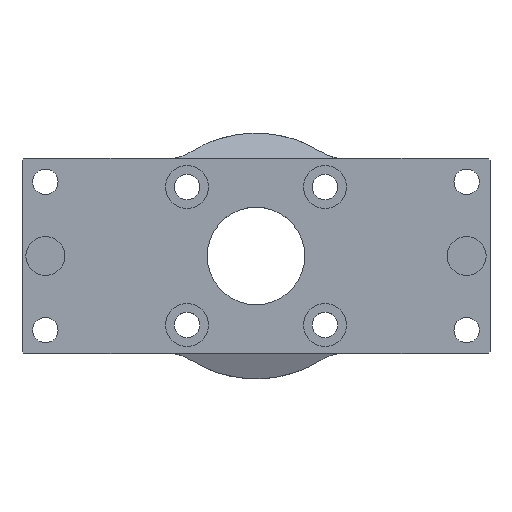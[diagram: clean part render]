
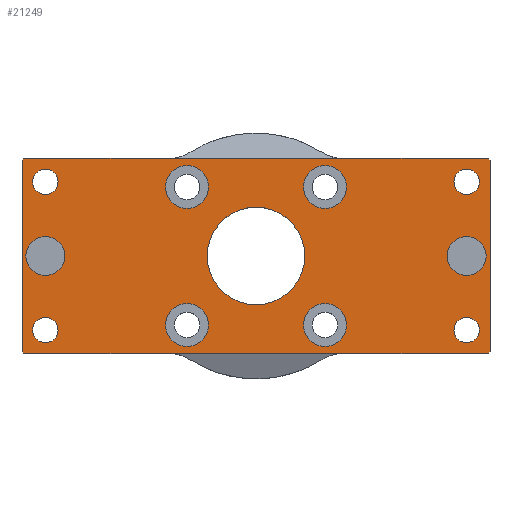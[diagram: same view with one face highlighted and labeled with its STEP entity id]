
A CAD part, top view. The second image highlights one B-rep face of the part: STEP entity #21249.
In plain terms, the highlighted planar face has unit normal (0, 0, 1).
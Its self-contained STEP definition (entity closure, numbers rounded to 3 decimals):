
#163=CARTESIAN_POINT('',(57.25,-19.0,0.0));
#164=VERTEX_POINT('',#163);
#165=CARTESIAN_POINT('',(54.0,-19.0,0.0));
#166=DIRECTION('',(0.0,0.0,-1.0));
#167=DIRECTION('',(-1.0,0.0,0.0));
#168=AXIS2_PLACEMENT_3D('',#165,#166,#167);
#169=CIRCLE('',#168,3.25);
#170=EDGE_CURVE('',#164,#164,#169,.T.);
#273=CARTESIAN_POINT('',(-50.75,-19.0,0.0));
#274=VERTEX_POINT('',#273);
#275=CARTESIAN_POINT('',(-54.0,-19.0,0.0));
#276=DIRECTION('',(0.0,0.0,-1.0));
#277=DIRECTION('',(-1.0,0.0,0.0));
#278=AXIS2_PLACEMENT_3D('',#275,#276,#277);
#279=CIRCLE('',#278,3.25);
#280=EDGE_CURVE('',#274,#274,#279,.T.);
#383=CARTESIAN_POINT('',(-50.75,19.0,0.0));
#384=VERTEX_POINT('',#383);
#385=CARTESIAN_POINT('',(-54.0,19.0,0.0));
#386=DIRECTION('',(0.0,0.0,-1.0));
#387=DIRECTION('',(-1.0,0.0,0.0));
#388=AXIS2_PLACEMENT_3D('',#385,#386,#387);
#389=CIRCLE('',#388,3.25);
#390=EDGE_CURVE('',#384,#384,#389,.T.);
#493=CARTESIAN_POINT('',(57.25,19.0,0.0));
#494=VERTEX_POINT('',#493);
#495=CARTESIAN_POINT('',(54.0,19.0,0.0));
#496=DIRECTION('',(0.0,0.0,-1.0));
#497=DIRECTION('',(-1.0,0.0,0.0));
#498=AXIS2_PLACEMENT_3D('',#495,#496,#497);
#499=CIRCLE('',#498,3.25);
#500=EDGE_CURVE('',#494,#494,#499,.T.);
#513=CARTESIAN_POINT('',(-22.299,25.0,0.0));
#514=VERTEX_POINT('',#513);
#524=CARTESIAN_POINT('',(22.299,25.0,0.0));
#525=VERTEX_POINT('',#524);
#526=CARTESIAN_POINT('',(22.299,25.,0.0));
#527=DIRECTION('',(-1.0,0.0,0.0));
#528=VECTOR('',#527,44.598);
#529=LINE('',#526,#528);
#530=EDGE_CURVE('',#525,#514,#529,.T.);
#556=CARTESIAN_POINT('',(22.299,-25.0,0.0));
#557=VERTEX_POINT('',#556);
#567=CARTESIAN_POINT('',(-22.299,-25.0,0.0));
#568=VERTEX_POINT('',#567);
#569=CARTESIAN_POINT('',(-22.299,-25.0,0.));
#570=DIRECTION('',(1.0,0.0,0.0));
#571=VECTOR('',#570,44.598);
#572=LINE('',#569,#571);
#573=EDGE_CURVE('',#568,#557,#572,.T.);
#19398=CARTESIAN_POINT('',(-59.5,25.,0.0));
#19399=VERTEX_POINT('',#19398);
#19408=CARTESIAN_POINT('',(-22.299,25.0,0.0));
#19409=DIRECTION('',(-1.0,0.0,0.0));
#19410=VECTOR('',#19409,37.201);
#19411=LINE('',#19408,#19410);
#19412=EDGE_CURVE('',#514,#19399,#19411,.T.);
#19955=CARTESIAN_POINT('',(59.5,25.,0.0));
#19956=VERTEX_POINT('',#19955);
#19963=CARTESIAN_POINT('',(60.,24.5,0.0));
#19964=VERTEX_POINT('',#19963);
#19965=CARTESIAN_POINT('',(59.5,25.0,0.0));
#19966=DIRECTION('',(0.707,-0.707,0.0));
#19967=VECTOR('',#19966,0.707);
#19968=LINE('',#19965,#19967);
#19969=EDGE_CURVE('',#19956,#19964,#19968,.T.);
#20179=CARTESIAN_POINT('',(60.,-24.5,0.0));
#20180=VERTEX_POINT('',#20179);
#20181=CARTESIAN_POINT('',(60.,-24.5,0.0));
#20182=DIRECTION('',(0.0,1.0,0.0));
#20183=VECTOR('',#20182,49.0);
#20184=LINE('',#20181,#20183);
#20185=EDGE_CURVE('',#20180,#19964,#20184,.T.);
#20204=CARTESIAN_POINT('',(59.5,-25.,0.0));
#20205=VERTEX_POINT('',#20204);
#20206=CARTESIAN_POINT('',(60.,-24.5,0.0));
#20207=DIRECTION('',(-0.707,-0.707,0.0));
#20208=VECTOR('',#20207,0.707);
#20209=LINE('',#20206,#20208);
#20210=EDGE_CURVE('',#20180,#20205,#20209,.T.);
#20227=CARTESIAN_POINT('',(-60.,24.5,0.0));
#20228=VERTEX_POINT('',#20227);
#20235=CARTESIAN_POINT('',(-60.,24.5,0.0));
#20236=DIRECTION('',(0.707,0.707,0.0));
#20237=VECTOR('',#20236,0.707);
#20238=LINE('',#20235,#20237);
#20239=EDGE_CURVE('',#20228,#19399,#20238,.T.);
#20252=CARTESIAN_POINT('',(-60.,-24.5,0.0));
#20253=VERTEX_POINT('',#20252);
#20260=CARTESIAN_POINT('',(-60.,24.5,0.0));
#20261=DIRECTION('',(0.0,-1.0,0.0));
#20262=VECTOR('',#20261,49.0);
#20263=LINE('',#20260,#20262);
#20264=EDGE_CURVE('',#20228,#20253,#20263,.T.);
#20275=CARTESIAN_POINT('',(-59.5,-25.,0.0));
#20276=VERTEX_POINT('',#20275);
#20283=CARTESIAN_POINT('',(-59.5,-25.0,0.0));
#20284=DIRECTION('',(-0.707,0.707,0.0));
#20285=VECTOR('',#20284,0.707);
#20286=LINE('',#20283,#20285);
#20287=EDGE_CURVE('',#20276,#20253,#20286,.T.);
#20301=CARTESIAN_POINT('',(-59.5,-25.,0.0));
#20302=DIRECTION('',(1.0,0.0,0.0));
#20303=VECTOR('',#20302,37.201);
#20304=LINE('',#20301,#20303);
#20305=EDGE_CURVE('',#20276,#568,#20304,.T.);
#20364=CARTESIAN_POINT('',(-12.178,-17.678,0.0));
#20365=VERTEX_POINT('',#20364);
#20366=CARTESIAN_POINT('',(-17.678,-17.678,0.0));
#20367=DIRECTION('',(0.0,0.0,-1.0));
#20368=DIRECTION('',(1.0,0.0,0.0));
#20369=AXIS2_PLACEMENT_3D('',#20366,#20367,#20368);
#20370=CIRCLE('',#20369,5.5);
#20371=EDGE_CURVE('',#20365,#20365,#20370,.T.);
#20466=CARTESIAN_POINT('',(23.178,-17.678,0.0));
#20467=VERTEX_POINT('',#20466);
#20468=CARTESIAN_POINT('',(17.678,-17.678,0.0));
#20469=DIRECTION('',(0.0,0.0,-1.0));
#20470=DIRECTION('',(1.0,0.0,0.0));
#20471=AXIS2_PLACEMENT_3D('',#20468,#20469,#20470);
#20472=CIRCLE('',#20471,5.5);
#20473=EDGE_CURVE('',#20467,#20467,#20472,.T.);
#20568=CARTESIAN_POINT('',(23.178,17.678,0.0));
#20569=VERTEX_POINT('',#20568);
#20570=CARTESIAN_POINT('',(17.678,17.678,0.0));
#20571=DIRECTION('',(0.0,0.0,-1.0));
#20572=DIRECTION('',(1.0,0.0,0.0));
#20573=AXIS2_PLACEMENT_3D('',#20570,#20571,#20572);
#20574=CIRCLE('',#20573,5.5);
#20575=EDGE_CURVE('',#20569,#20569,#20574,.T.);
#20670=CARTESIAN_POINT('',(-12.178,17.678,0.0));
#20671=VERTEX_POINT('',#20670);
#20672=CARTESIAN_POINT('',(-17.678,17.678,0.0));
#20673=DIRECTION('',(0.0,0.0,-1.0));
#20674=DIRECTION('',(1.0,0.0,0.0));
#20675=AXIS2_PLACEMENT_3D('',#20672,#20673,#20674);
#20676=CIRCLE('',#20675,5.5);
#20677=EDGE_CURVE('',#20671,#20671,#20676,.T.);
#20944=CARTESIAN_POINT('',(59.0,0.0,0.0));
#20945=VERTEX_POINT('',#20944);
#20946=CARTESIAN_POINT('',(54.0,0.0,0.0));
#20947=DIRECTION('',(0.0,0.0,-1.0));
#20948=DIRECTION('',(1.0,0.0,0.0));
#20949=AXIS2_PLACEMENT_3D('',#20946,#20947,#20948);
#20950=CIRCLE('',#20949,5.0);
#20951=EDGE_CURVE('',#20945,#20945,#20950,.T.);
#21002=CARTESIAN_POINT('',(-49.0,0.0,0.0));
#21003=VERTEX_POINT('',#21002);
#21004=CARTESIAN_POINT('',(-54.0,0.0,0.0));
#21005=DIRECTION('',(0.0,0.0,-1.0));
#21006=DIRECTION('',(1.0,0.0,0.0));
#21007=AXIS2_PLACEMENT_3D('',#21004,#21005,#21006);
#21008=CIRCLE('',#21007,5.0);
#21009=EDGE_CURVE('',#21003,#21003,#21008,.T.);
#21087=CARTESIAN_POINT('',(12.505,0.,0.0));
#21088=VERTEX_POINT('',#21087);
#21089=CARTESIAN_POINT('',(0.0,0.0,0.0));
#21090=DIRECTION('',(0.0,0.0,-1.0));
#21091=DIRECTION('',(-1.0,0.0,0.0));
#21092=AXIS2_PLACEMENT_3D('',#21089,#21090,#21091);
#21093=CIRCLE('',#21092,12.505);
#21094=EDGE_CURVE('',#21088,#21088,#21093,.T.);
#21159=CARTESIAN_POINT('',(59.5,25.,0.0));
#21160=DIRECTION('',(-1.0,0.0,0.0));
#21161=VECTOR('',#21160,37.201);
#21162=LINE('',#21159,#21161);
#21163=EDGE_CURVE('',#19956,#525,#21162,.T.);
#21174=CARTESIAN_POINT('',(22.299,-25.0,0.0));
#21175=DIRECTION('',(1.0,0.0,0.0));
#21176=VECTOR('',#21175,37.201);
#21177=LINE('',#21174,#21176);
#21178=EDGE_CURVE('',#557,#20205,#21177,.T.);
#21197=CARTESIAN_POINT('',(0.0,0.,0.0));
#21198=DIRECTION('',(0.0,0.0,1.0));
#21199=DIRECTION('',(1.0,0.0,0.0));
#21200=AXIS2_PLACEMENT_3D('',#21197,#21198,#21199);
#21201=PLANE('',#21200);
#21202=ORIENTED_EDGE('',*,*,#530,.T.);
#21203=ORIENTED_EDGE('',*,*,#19412,.T.);
#21204=ORIENTED_EDGE('',*,*,#20239,.F.);
#21205=ORIENTED_EDGE('',*,*,#20264,.T.);
#21206=ORIENTED_EDGE('',*,*,#20287,.F.);
#21207=ORIENTED_EDGE('',*,*,#20305,.T.);
#21208=ORIENTED_EDGE('',*,*,#573,.T.);
#21209=ORIENTED_EDGE('',*,*,#21178,.T.);
#21210=ORIENTED_EDGE('',*,*,#20210,.F.);
#21211=ORIENTED_EDGE('',*,*,#20185,.T.);
#21212=ORIENTED_EDGE('',*,*,#19969,.F.);
#21213=ORIENTED_EDGE('',*,*,#21163,.T.);
#21214=EDGE_LOOP('',(#21202,#21203,#21204,#21205,#21206,#21207,#21208,#21209,#21210,#21211,#21212,#21213));
#21215=FACE_OUTER_BOUND('',#21214,.T.);
#21216=ORIENTED_EDGE('',*,*,#170,.T.);
#21217=EDGE_LOOP('',(#21216));
#21218=FACE_BOUND('',#21217,.T.);
#21219=ORIENTED_EDGE('',*,*,#280,.T.);
#21220=EDGE_LOOP('',(#21219));
#21221=FACE_BOUND('',#21220,.T.);
#21222=ORIENTED_EDGE('',*,*,#390,.T.);
#21223=EDGE_LOOP('',(#21222));
#21224=FACE_BOUND('',#21223,.T.);
#21225=ORIENTED_EDGE('',*,*,#500,.T.);
#21226=EDGE_LOOP('',(#21225));
#21227=FACE_BOUND('',#21226,.T.);
#21228=ORIENTED_EDGE('',*,*,#21094,.T.);
#21229=EDGE_LOOP('',(#21228));
#21230=FACE_BOUND('',#21229,.T.);
#21231=ORIENTED_EDGE('',*,*,#20371,.T.);
#21232=EDGE_LOOP('',(#21231));
#21233=FACE_BOUND('',#21232,.T.);
#21234=ORIENTED_EDGE('',*,*,#20473,.T.);
#21235=EDGE_LOOP('',(#21234));
#21236=FACE_BOUND('',#21235,.T.);
#21237=ORIENTED_EDGE('',*,*,#20575,.T.);
#21238=EDGE_LOOP('',(#21237));
#21239=FACE_BOUND('',#21238,.T.);
#21240=ORIENTED_EDGE('',*,*,#20677,.T.);
#21241=EDGE_LOOP('',(#21240));
#21242=FACE_BOUND('',#21241,.T.);
#21243=ORIENTED_EDGE('',*,*,#20951,.T.);
#21244=EDGE_LOOP('',(#21243));
#21245=FACE_BOUND('',#21244,.T.);
#21246=ORIENTED_EDGE('',*,*,#21009,.T.);
#21247=EDGE_LOOP('',(#21246));
#21248=FACE_BOUND('',#21247,.T.);
#21249=ADVANCED_FACE('',(#21215,#21218,#21221,#21224,#21227,#21230,#21233,#21236,#21239,#21242,#21245,#21248),#21201,.T.);
